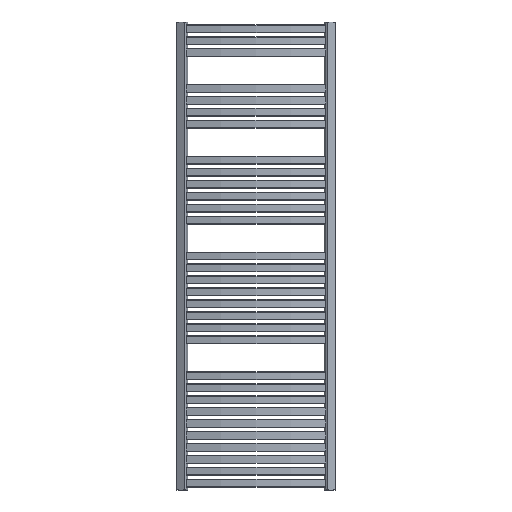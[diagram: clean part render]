
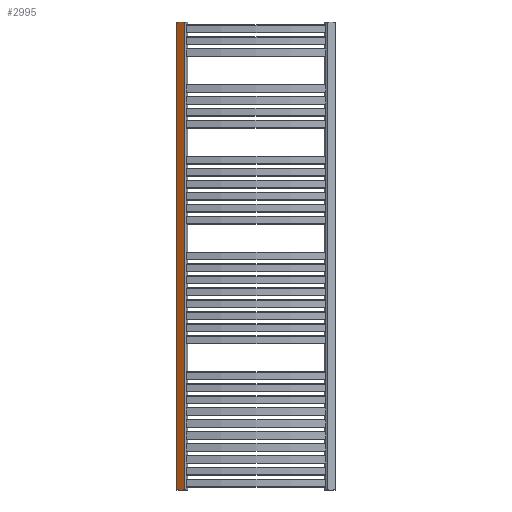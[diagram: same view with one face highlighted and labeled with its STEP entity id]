
A CAD part, front view. The second image highlights one B-rep face of the part: STEP entity #2995.
In plain terms, the highlighted planar face has unit normal (-0.515, -0.857, 0).
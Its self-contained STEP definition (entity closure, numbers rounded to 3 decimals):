
#249=CARTESIAN_POINT('',(-298.242,-5.701,1.5));
#250=VERTEX_POINT('',#249);
#298=CARTESIAN_POINT('',(-268.958,-23.297,1.5));
#299=VERTEX_POINT('',#298);
#307=CARTESIAN_POINT('',(-268.958,-23.297,1.5));
#308=DIRECTION('',(-0.857,0.515,0.0));
#309=VECTOR('',#308,34.164);
#310=LINE('',#307,#309);
#311=EDGE_CURVE('',#299,#250,#310,.T.);
#524=CARTESIAN_POINT('',(-298.242,-5.701,1758.5));
#525=VERTEX_POINT('',#524);
#526=CARTESIAN_POINT('',(-298.242,-5.701,1.5));
#527=DIRECTION('',(0.0,0.0,1.0));
#528=VECTOR('',#527,1757.0);
#529=LINE('',#526,#528);
#530=EDGE_CURVE('',#250,#525,#529,.T.);
#582=CARTESIAN_POINT('',(-268.958,-23.297,1758.5));
#583=VERTEX_POINT('',#582);
#600=CARTESIAN_POINT('',(-298.242,-5.701,1758.5));
#601=DIRECTION('',(0.857,-0.515,0.0));
#602=VECTOR('',#601,34.164);
#603=LINE('',#600,#602);
#604=EDGE_CURVE('',#525,#583,#603,.T.);
#2975=CARTESIAN_POINT('',(-268.958,-23.297,1758.5));
#2976=DIRECTION('',(0.0,0.0,-1.0));
#2977=VECTOR('',#2976,1757.0);
#2978=LINE('',#2975,#2977);
#2979=EDGE_CURVE('',#583,#299,#2978,.T.);
#2984=CARTESIAN_POINT('',(-265.048,-25.646,0.0));
#2985=DIRECTION('',(-0.515,-0.857,0.0));
#2986=DIRECTION('',(0.0,0.0,1.0));
#2987=AXIS2_PLACEMENT_3D('',#2984,#2985,#2986);
#2988=PLANE('',#2987);
#2989=ORIENTED_EDGE('',*,*,#311,.F.);
#2990=ORIENTED_EDGE('',*,*,#2979,.F.);
#2991=ORIENTED_EDGE('',*,*,#604,.F.);
#2992=ORIENTED_EDGE('',*,*,#530,.F.);
#2993=EDGE_LOOP('',(#2989,#2990,#2991,#2992));
#2994=FACE_OUTER_BOUND('',#2993,.T.);
#2995=ADVANCED_FACE('',(#2994),#2988,.T.);
